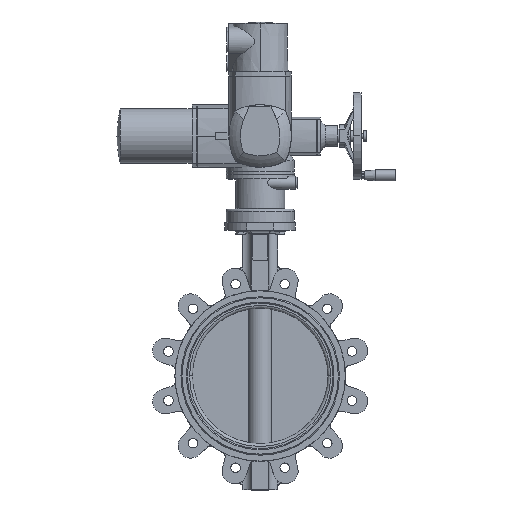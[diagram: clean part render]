
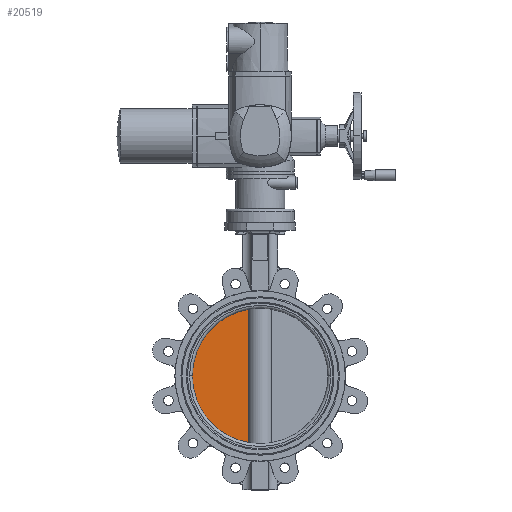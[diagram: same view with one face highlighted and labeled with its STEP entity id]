
A CAD part, top view. The second image highlights one B-rep face of the part: STEP entity #20519.
In plain terms, the highlighted planar face has unit normal (0, 0, 1).
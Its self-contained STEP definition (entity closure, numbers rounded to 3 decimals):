
#2112 = VERTEX_POINT ( 'NONE', #18493 ) ;
#2683 = AXIS2_PLACEMENT_3D ( 'NONE', #26051, #23640, #5294 ) ;
#4022 = EDGE_LOOP ( 'NONE', ( #25029, #26432, #26813 ) ) ;
#5185 = CARTESIAN_POINT ( 'NONE',  ( -21.166, 123.195, 6. ) ) ;
#5294 = DIRECTION ( 'NONE',  ( -1., 0., 0. ) ) ;
#5506 = DIRECTION ( 'NONE',  ( 0., 0., -1. ) ) ;
#6813 = CARTESIAN_POINT ( 'NONE',  ( -21.166, -123.195, 6. ) ) ;
#11035 = FACE_OUTER_BOUND ( 'NONE', #4022, .T. ) ;
#11044 = VERTEX_POINT ( 'NONE', #6813 ) ;
#14846 = CIRCLE ( 'NONE', #2683, 125. ) ;
#15209 = DIRECTION ( 'NONE',  ( 0., 0., -1. ) ) ;
#17626 = DIRECTION ( 'NONE',  ( -1., 0., 0. ) ) ;
#18493 = CARTESIAN_POINT ( 'NONE',  ( -125., 0., 6. ) ) ;
#18660 = PLANE ( 'NONE',  #23264 ) ;
#18841 = CARTESIAN_POINT ( 'NONE',  ( -127., 312.501, 6. ) ) ;
#19328 = AXIS2_PLACEMENT_3D ( 'NONE', #22796, #15209, #17626 ) ;
#20089 = VERTEX_POINT ( 'NONE', #5185 ) ;
#20519 = ADVANCED_FACE ( 'NONE', ( #11035 ), #18660, .F. ) ;
#20803 = DIRECTION ( 'NONE',  ( 0., -1., 0. ) ) ;
#22629 = CIRCLE ( 'NONE', #19328, 125. ) ;
#22796 = CARTESIAN_POINT ( 'NONE',  ( 0., 0., 6. ) ) ;
#23264 = AXIS2_PLACEMENT_3D ( 'NONE', #18841, #5506, #31900 ) ;
#23640 = DIRECTION ( 'NONE',  ( 0., 0., -1. ) ) ;
#23924 = LINE ( 'NONE', #29254, #31441 ) ;
#25029 = ORIENTED_EDGE ( 'NONE', *, *, #32306, .F. ) ;
#26051 = CARTESIAN_POINT ( 'NONE',  ( 0., 0., 6. ) ) ;
#26377 = EDGE_CURVE ( 'NONE', #20089, #11044, #23924, .T. ) ;
#26432 = ORIENTED_EDGE ( 'NONE', *, *, #26377, .F. ) ;
#26813 = ORIENTED_EDGE ( 'NONE', *, *, #29055, .F. ) ;
#29055 = EDGE_CURVE ( 'NONE', #2112, #20089, #22629, .T. ) ;
#29254 = CARTESIAN_POINT ( 'NONE',  ( -21.166, 312.501, 6. ) ) ;
#31441 = VECTOR ( 'NONE', #20803, 1000. ) ;
#31900 = DIRECTION ( 'NONE',  ( -1., 0., 0. ) ) ;
#32306 = EDGE_CURVE ( 'NONE', #11044, #2112, #14846, .T. ) ;
